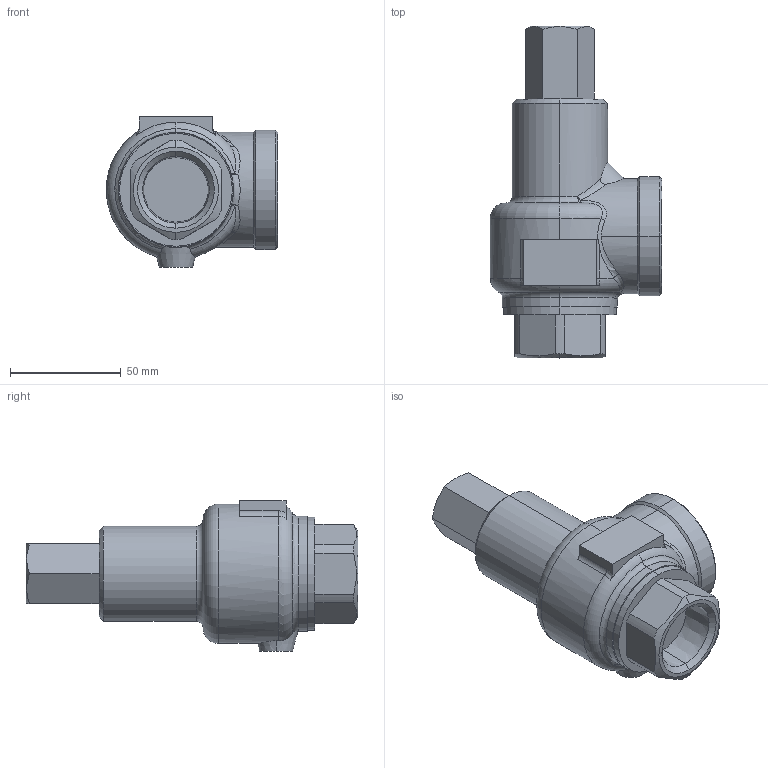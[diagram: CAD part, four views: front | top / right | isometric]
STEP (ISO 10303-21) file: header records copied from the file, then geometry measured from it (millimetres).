
FILE_DESCRIPTION (( 'STEP AP203' ), '1' );
FILE_NAME ('AL-140H 25A.STEP', '2026-01-08T05:55:15', ( '' ), ( '' ), 'SwSTEP 2.0', 'SolidWorks 2024', '' );
FILE_SCHEMA (( 'CONFIG_CONTROL_DESIGN' ));
Length unit declared in the file: millimetre
Products named in the file (1): AL-140H 25A
Bounding box: 77.5 x 150 x 68 mm (x, y, z)
Volume: 277951.7 mm3; surface area: 33464.3 mm2
Topology: 1 solids, 1 shells, 97 faces, 232 edges, 140 vertices
Faces by surface type: plane 26, cylinder 24, cone 20, torus 12, bspline 11, sphere 4
Entity records: 4049 total; most frequent: CARTESIAN_POINT 1812, ORIENTED_EDGE 460, DIRECTION 449, EDGE_CURVE 230, AXIS2_PLACEMENT_3D 187, VERTEX_POINT 140, EDGE_LOOP 102, CIRCLE 100
